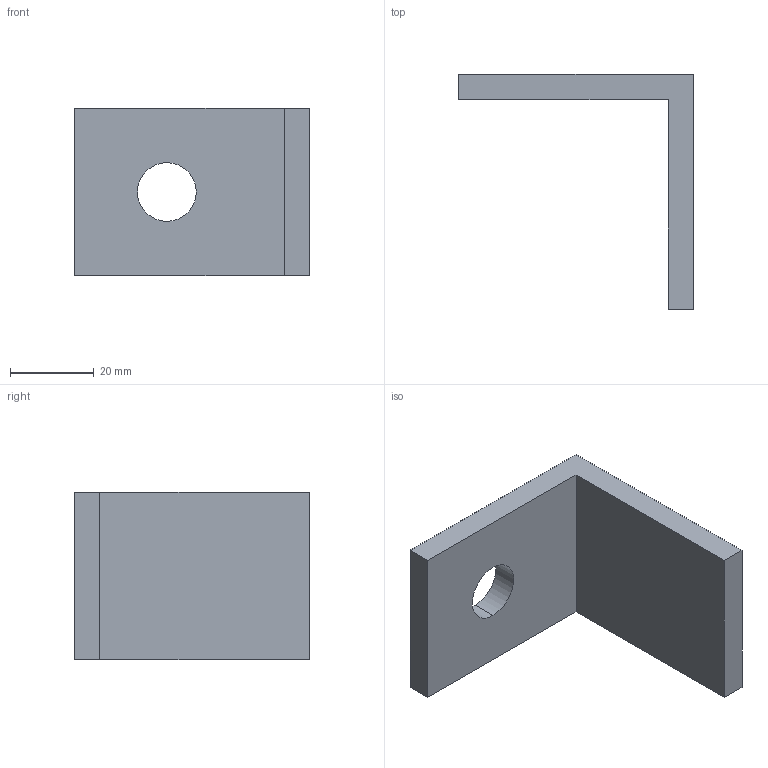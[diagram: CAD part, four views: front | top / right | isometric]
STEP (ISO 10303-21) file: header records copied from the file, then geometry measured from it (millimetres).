
FILE_DESCRIPTION((''),'2;1');
FILE_NAME('SMALLBRACKET','2014-11-23T',('mphilpott'),(''),'CREO PARAMETRIC BY PTC INC, 2014190','CREO PARAMETRIC BY PTC INC, 2014190','');
FILE_SCHEMA(('CONFIG_CONTROL_DESIGN'));
Length unit declared in the file: millimetre
Products named in the file (1): SMALLBRACKET
Bounding box: 56 x 56 x 40 mm (x, y, z)
Volume: 24516.4 mm3; surface area: 10188 mm2
Topology: 1 solids, 1 shells, 10 faces, 24 edges, 16 vertices
Faces by surface type: plane 8, cylinder 2
Entity records: 334 total; most frequent: CARTESIAN_POINT 50, DIRECTION 48, ORIENTED_EDGE 48, EDGE_CURVE 24, VECTOR 20, LINE 20, VERTEX_POINT 16, AXIS2_PLACEMENT_3D 14
